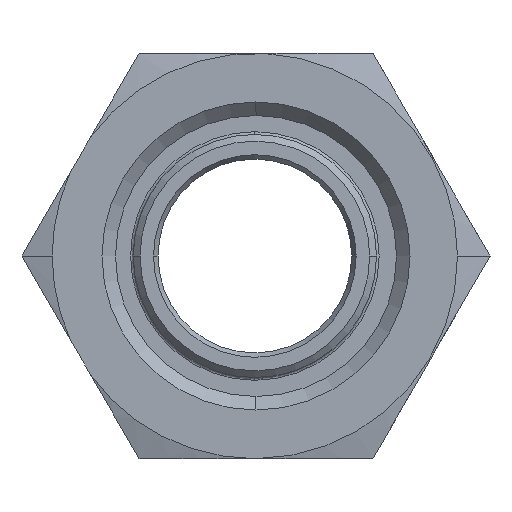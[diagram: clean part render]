
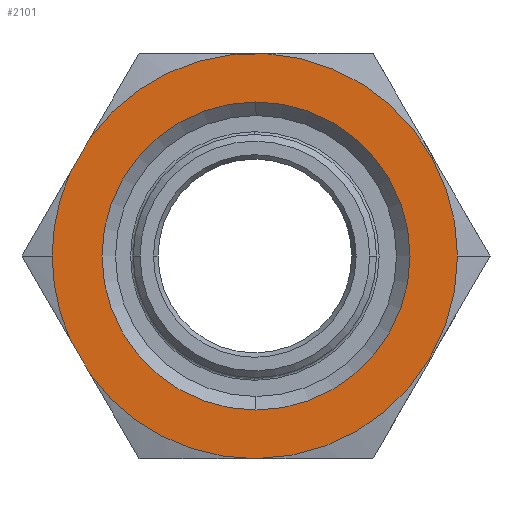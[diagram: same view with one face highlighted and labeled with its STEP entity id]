
A CAD part, left-side view. The second image highlights one B-rep face of the part: STEP entity #2101.
In plain terms, the highlighted planar face has unit normal (-1, 0, 0) as drawn and (0, 0, 1) by its records, which use the part's own axes.
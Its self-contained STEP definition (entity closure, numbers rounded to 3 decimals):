
#1611=CARTESIAN_POINT('',(0.,15.,16.0));
#1612=VERTEX_POINT('',#1611);
#1621=CARTESIAN_POINT('',(6.178,13.668,16.0));
#1622=VERTEX_POINT('',#1621);
#1623=CARTESIAN_POINT('',(0.0,0.0,16.0));
#1624=DIRECTION('',(0.0,0.0,1.0));
#1625=DIRECTION('',(0.0,1.0,0.0));
#1626=AXIS2_PLACEMENT_3D('',#1623,#1624,#1625);
#1627=CIRCLE('',#1626,15.);
#1628=EDGE_CURVE('',#1622,#1612,#1627,.T.);
#1668=CARTESIAN_POINT('',(0.,-15.,16.0));
#1669=VERTEX_POINT('',#1668);
#1721=CARTESIAN_POINT('',(8.748,12.185,16.0));
#1722=VERTEX_POINT('',#1721);
#1736=CARTESIAN_POINT('',(0.0,0.0,16.0));
#1737=DIRECTION('',(0.0,0.0,1.0));
#1738=DIRECTION('',(0.0,1.0,0.0));
#1739=AXIS2_PLACEMENT_3D('',#1736,#1737,#1738);
#1740=CIRCLE('',#1739,15.);
#1741=EDGE_CURVE('',#1669,#1722,#1740,.T.);
#1793=CARTESIAN_POINT('',(-11.4,-0.085,16.0));
#1794=VERTEX_POINT('',#1793);
#1808=CARTESIAN_POINT('',(11.4,-0.085,16.0));
#1809=VERTEX_POINT('',#1808);
#1816=CARTESIAN_POINT('',(0.,-0.085,16.0));
#1817=DIRECTION('',(0.0,0.0,1.0));
#1818=DIRECTION('',(-1.0,0.0,0.0));
#1819=AXIS2_PLACEMENT_3D('',#1816,#1817,#1818);
#1820=CIRCLE('',#1819,11.4);
#1821=EDGE_CURVE('',#1809,#1794,#1820,.T.);
#2029=CARTESIAN_POINT('',(0.,-0.085,16.0));
#2030=DIRECTION('',(0.0,0.0,1.0));
#2031=DIRECTION('',(-1.0,0.0,0.0));
#2032=AXIS2_PLACEMENT_3D('',#2029,#2030,#2031);
#2033=CIRCLE('',#2032,11.4);
#2034=EDGE_CURVE('',#1794,#1809,#2033,.T.);
#2041=CARTESIAN_POINT('',(0.,-0.085,16.0));
#2042=DIRECTION('',(0.0,0.0,1.0));
#2043=DIRECTION('',(1.0,0.0,0.0));
#2044=AXIS2_PLACEMENT_3D('',#2041,#2042,#2043);
#2045=PLANE('',#2044);
#2046=CARTESIAN_POINT('',(-8.75,12.184,16.0));
#2047=VERTEX_POINT('',#2046);
#2048=CARTESIAN_POINT('',(-15.,0.076,16.0));
#2049=VERTEX_POINT('',#2048);
#2050=CARTESIAN_POINT('',(0.0,0.0,16.0));
#2051=DIRECTION('',(0.0,0.0,1.0));
#2052=DIRECTION('',(0.0,1.0,0.0));
#2053=AXIS2_PLACEMENT_3D('',#2050,#2051,#2052);
#2054=CIRCLE('',#2053,15.);
#2055=EDGE_CURVE('',#2047,#2049,#2054,.T.);
#2056=ORIENTED_EDGE('',*,*,#2055,.T.);
#2057=CARTESIAN_POINT('',(-15.,-0.076,16.0));
#2058=VERTEX_POINT('',#2057);
#2059=CARTESIAN_POINT('',(-15.,-0.076,16.0));
#2060=DIRECTION('',(0.0,1.0,0.0));
#2061=VECTOR('',#2060,0.151);
#2062=LINE('',#2059,#2061);
#2063=EDGE_CURVE('',#2058,#2049,#2062,.T.);
#2064=ORIENTED_EDGE('',*,*,#2063,.F.);
#2065=CARTESIAN_POINT('',(0.0,0.0,16.0));
#2066=DIRECTION('',(0.0,0.0,1.0));
#2067=DIRECTION('',(0.0,1.0,0.0));
#2068=AXIS2_PLACEMENT_3D('',#2065,#2066,#2067);
#2069=CIRCLE('',#2068,15.);
#2070=EDGE_CURVE('',#2058,#1669,#2069,.T.);
#2071=ORIENTED_EDGE('',*,*,#2070,.T.);
#2072=ORIENTED_EDGE('',*,*,#1741,.T.);
#2073=CARTESIAN_POINT('',(6.178,13.668,16.0));
#2074=DIRECTION('',(0.866,-0.5,0.0));
#2075=VECTOR('',#2074,2.967);
#2076=LINE('',#2073,#2075);
#2077=EDGE_CURVE('',#1622,#1722,#2076,.T.);
#2078=ORIENTED_EDGE('',*,*,#2077,.F.);
#2079=ORIENTED_EDGE('',*,*,#1628,.T.);
#2080=CARTESIAN_POINT('',(-6.177,13.669,16.0));
#2081=VERTEX_POINT('',#2080);
#2082=CARTESIAN_POINT('',(0.0,0.0,16.0));
#2083=DIRECTION('',(0.0,0.0,1.0));
#2084=DIRECTION('',(0.0,1.0,0.0));
#2085=AXIS2_PLACEMENT_3D('',#2082,#2083,#2084);
#2086=CIRCLE('',#2085,15.);
#2087=EDGE_CURVE('',#1612,#2081,#2086,.T.);
#2088=ORIENTED_EDGE('',*,*,#2087,.T.);
#2089=CARTESIAN_POINT('',(-8.75,12.184,16.0));
#2090=DIRECTION('',(0.866,0.5,0.0));
#2091=VECTOR('',#2090,2.971);
#2092=LINE('',#2089,#2091);
#2093=EDGE_CURVE('',#2047,#2081,#2092,.T.);
#2094=ORIENTED_EDGE('',*,*,#2093,.F.);
#2095=EDGE_LOOP('',(#2056,#2064,#2071,#2072,#2078,#2079,#2088,#2094));
#2096=FACE_OUTER_BOUND('',#2095,.T.);
#2097=ORIENTED_EDGE('',*,*,#1821,.F.);
#2098=ORIENTED_EDGE('',*,*,#2034,.F.);
#2099=EDGE_LOOP('',(#2097,#2098));
#2100=FACE_BOUND('',#2099,.T.);
#2101=ADVANCED_FACE('',(#2096,#2100),#2045,.T.);
